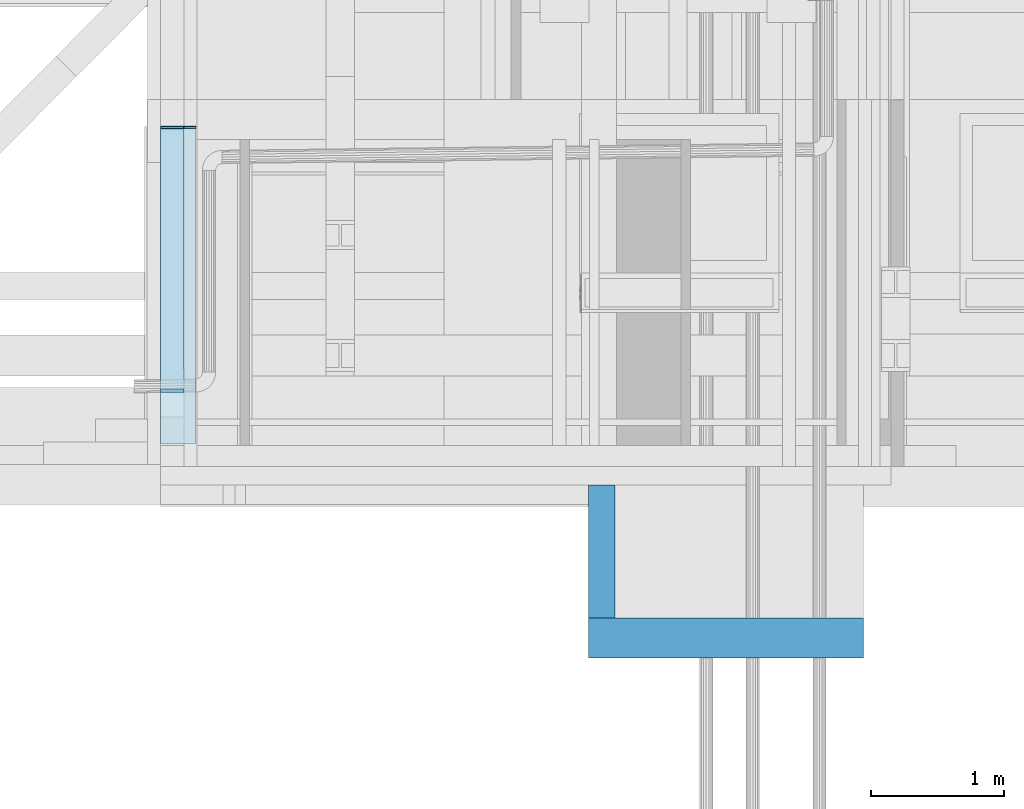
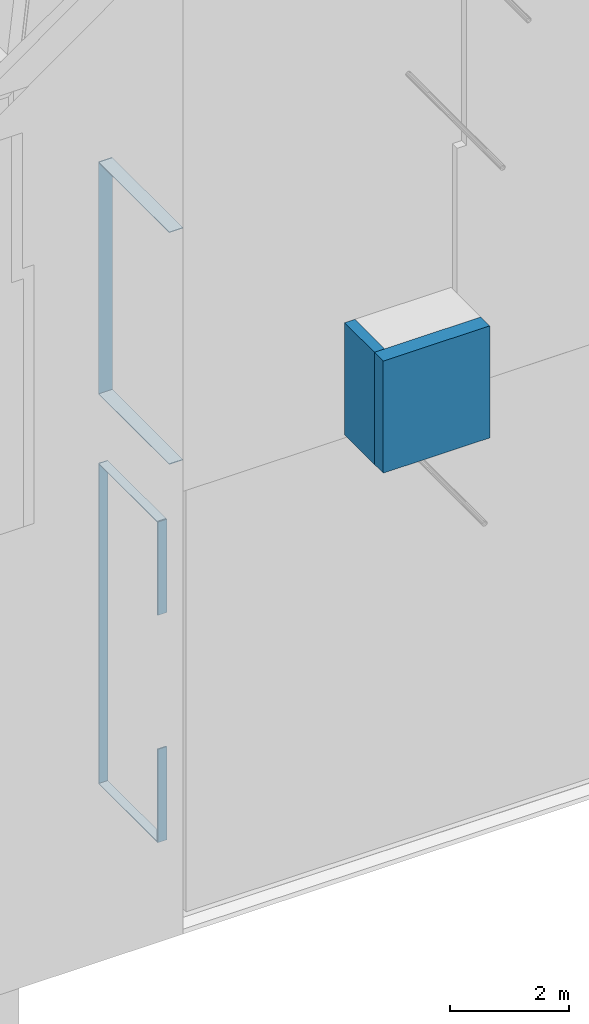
# One storey, part 242 of 583: 10 slabs.
"""IFC2X3 building model written with IfcOpenShell, lengths in metres."""

from ifc_helpers import new_model, entity, si_unit, converted_unit, derived_unit, money_unit, direction, frame, origin_with_axes, place, context, subcontext, project, spatial, faceted_brep, material, type_object, element, save


model = new_model("IFC2X3")

# Units and contexts
model_context = context("Model", 3, precision=1e-05, world=origin_with_axes(), true_north=direction((0.0, 1.0)))
body_context = subcontext(model_context, "Body", "Model", "MODEL_VIEW", scale=1.0)
ifc_project = project(units=[si_unit("LENGTHUNIT", "METRE"), si_unit("AREAUNIT", "SQUARE_METRE"), si_unit("VOLUMEUNIT", "CUBIC_METRE"), si_unit("ABSORBEDDOSEUNIT", "GRAY"), si_unit("AMOUNTOFSUBSTANCEUNIT", "MOLE"), si_unit("DOSEEQUIVALENTUNIT", "SIEVERT"), si_unit("ELECTRICCAPACITANCEUNIT", "FARAD"), si_unit("ELECTRICCHARGEUNIT", "COULOMB"), si_unit("ELECTRICCONDUCTANCEUNIT", "SIEMENS"), si_unit("ELECTRICCURRENTUNIT", "AMPERE"), si_unit("ELECTRICRESISTANCEUNIT", "OHM"), si_unit("ELECTRICVOLTAGEUNIT", "VOLT"), si_unit("ENERGYUNIT", "JOULE"), si_unit("FORCEUNIT", "NEWTON"), si_unit("FREQUENCYUNIT", "HERTZ"), si_unit("ILLUMINANCEUNIT", "LUX"), si_unit("INDUCTANCEUNIT", "HENRY"), si_unit("LUMINOUSFLUXUNIT", "LUMEN"), si_unit("LUMINOUSINTENSITYUNIT", "CANDELA"), si_unit("MAGNETICFLUXDENSITYUNIT", "TESLA"), si_unit("MAGNETICFLUXUNIT", "WEBER"), si_unit("MASSUNIT", "GRAM"), converted_unit("PLANEANGLEUNIT", "degree", entity("IfcReal", 0.0174532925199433), si_unit("PLANEANGLEUNIT", "RADIAN"), dimensions=[0, 0, 0, 0, 0, 0, 0]), si_unit("POWERUNIT", "WATT"), si_unit("PRESSUREUNIT", "PASCAL"), si_unit("RADIOACTIVITYUNIT", "BECQUEREL"), si_unit("SOLIDANGLEUNIT", "STERADIAN"), si_unit("THERMODYNAMICTEMPERATUREUNIT", "KELVIN"), si_unit("TIMEUNIT", "SECOND"), derived_unit("ACCELERATIONUNIT", [(si_unit("LENGTHUNIT", "METRE"), 1), (si_unit("TIMEUNIT", "SECOND"), -2)]), derived_unit("ANGULARVELOCITYUNIT", [(converted_unit("PLANEANGLEUNIT", "degree", entity("IfcReal", 0.0174532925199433), si_unit("PLANEANGLEUNIT", "RADIAN"), dimensions=[0, 0, 0, 0, 0, 0, 0]), 1), (si_unit("TIMEUNIT", "SECOND"), -1)]), derived_unit("CURVATUREUNIT", [(converted_unit("PLANEANGLEUNIT", "degree", entity("IfcReal", 0.0174532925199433), si_unit("PLANEANGLEUNIT", "RADIAN"), dimensions=[0, 0, 0, 0, 0, 0, 0]), 1), (si_unit("LENGTHUNIT", "METRE"), -1)]), derived_unit("DYNAMICVISCOSITYUNIT", [(si_unit("PRESSUREUNIT", "PASCAL"), 1), (si_unit("TIMEUNIT", "SECOND"), 1)]), derived_unit("HEATFLUXDENSITYUNIT", [(si_unit("POWERUNIT", "WATT"), 1), (si_unit("LENGTHUNIT", "METRE"), -2)]), derived_unit("HEATINGVALUEUNIT", [(si_unit("ENERGYUNIT", "JOULE"), 1), (si_unit("MASSUNIT", "GRAM"), -1)]), derived_unit("INTEGERCOUNTRATEUNIT", [(si_unit("TIMEUNIT", "SECOND"), -1)]), derived_unit("IONCONCENTRATIONUNIT", [(si_unit("MASSUNIT", "GRAM"), 1), (si_unit("VOLUMEUNIT", "CUBIC_METRE"), -1)]), derived_unit("ISOTHERMALMOISTURECAPACITYUNIT", [(si_unit("VOLUMEUNIT", "CUBIC_METRE"), 1), (si_unit("MASSUNIT", "GRAM"), -1)]), derived_unit("KINEMATICVISCOSITYUNIT", [(si_unit("AREAUNIT", "SQUARE_METRE"), 1), (si_unit("TIMEUNIT", "SECOND"), -1)]), derived_unit("LINEARFORCEUNIT", [(si_unit("FORCEUNIT", "NEWTON"), 1), (si_unit("LENGTHUNIT", "METRE"), -1)]), derived_unit("LINEARMOMENTUNIT", [(si_unit("FORCEUNIT", "NEWTON"), 1), (si_unit("LENGTHUNIT", "METRE"), -1)]), derived_unit("LINEARSTIFFNESSUNIT", [(si_unit("FORCEUNIT", "NEWTON"), 1), (si_unit("LENGTHUNIT", "METRE"), -1)]), derived_unit("LINEARVELOCITYUNIT", [(si_unit("LENGTHUNIT", "METRE"), 1), (si_unit("TIMEUNIT", "SECOND"), -1)]), derived_unit("LUMINOUSINTENSITYDISTRIBUTIONUNIT", [(si_unit("LUMINOUSINTENSITYUNIT", "CANDELA"), 1), (si_unit("LUMINOUSFLUXUNIT", "LUMEN"), -1)]), derived_unit("MASSDENSITYUNIT", [(si_unit("MASSUNIT", "GRAM"), 1), (si_unit("VOLUMEUNIT", "CUBIC_METRE"), -1)]), derived_unit("MASSFLOWRATEUNIT", [(si_unit("MASSUNIT", "GRAM"), 1), (si_unit("TIMEUNIT", "SECOND"), -1)]), derived_unit("MASSPERLENGTHUNIT", [(si_unit("MASSUNIT", "GRAM"), 1), (si_unit("LENGTHUNIT", "METRE"), -1)]), derived_unit("MODULUSOFELASTICITYUNIT", [(si_unit("FORCEUNIT", "NEWTON"), 1), (si_unit("AREAUNIT", "SQUARE_METRE"), -1)]), derived_unit("MODULUSOFLINEARSUBGRADEREACTIONUNIT", [(si_unit("FORCEUNIT", "NEWTON"), 1), (si_unit("LENGTHUNIT", "METRE"), -2)]), derived_unit("MODULUSOFROTATIONALSUBGRADEREACTIONUNIT", [(si_unit("FORCEUNIT", "NEWTON"), 1), (si_unit("LENGTHUNIT", "METRE"), 1)]), derived_unit("MODULUSOFSUBGRADEREACTIONUNIT", [(si_unit("FORCEUNIT", "NEWTON"), 1), (si_unit("VOLUMEUNIT", "CUBIC_METRE"), -1)]), derived_unit("MOISTUREDIFFUSIVITYUNIT", [(si_unit("VOLUMEUNIT", "CUBIC_METRE"), 1), (si_unit("TIMEUNIT", "SECOND"), -1)]), derived_unit("MOLECULARWEIGHTUNIT", [(si_unit("MASSUNIT", "GRAM"), 1), (si_unit("AMOUNTOFSUBSTANCEUNIT", "MOLE"), -1)]), derived_unit("PLANARFORCEUNIT", [(si_unit("FORCEUNIT", "NEWTON"), 1), (si_unit("LENGTHUNIT", "METRE"), -2)]), derived_unit("ROTATIONALFREQUENCYUNIT", [(si_unit("TIMEUNIT", "SECOND"), -1)]), derived_unit("ROTATIONALMASSUNIT", [(si_unit("MASSUNIT", "GRAM"), 1), (si_unit("LENGTHUNIT", "METRE"), 2)]), derived_unit("ROTATIONALSTIFFNESSUNIT", [(si_unit("FORCEUNIT", "NEWTON"), 1), (si_unit("LENGTHUNIT", "METRE"), 1), (converted_unit("PLANEANGLEUNIT", "degree", entity("IfcReal", 0.0174532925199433), si_unit("PLANEANGLEUNIT", "RADIAN"), dimensions=[0, 0, 0, 0, 0, 0, 0]), -1)]), derived_unit("SECTIONAREAINTEGRALUNIT", [(si_unit("LENGTHUNIT", "METRE"), 5)]), derived_unit("SECTIONMODULUSUNIT", [(si_unit("LENGTHUNIT", "METRE"), 3)]), derived_unit("SHEARMODULUSUNIT", [(si_unit("FORCEUNIT", "NEWTON"), 1), (si_unit("AREAUNIT", "SQUARE_METRE"), -1)]), derived_unit("SOUNDPOWERUNIT", [(si_unit("ENERGYUNIT", "JOULE"), 1), (si_unit("TIMEUNIT", "SECOND"), -1)]), derived_unit("SPECIFICHEATCAPACITYUNIT", [(si_unit("FORCEUNIT", "NEWTON"), 1), (si_unit("MASSUNIT", "GRAM"), -1), (si_unit("THERMODYNAMICTEMPERATUREUNIT", "KELVIN"), -1)]), derived_unit("TEMPERATUREGRADIENTUNIT", [(si_unit("THERMODYNAMICTEMPERATUREUNIT", "KELVIN"), 1), (si_unit("LENGTHUNIT", "METRE"), -1)]), derived_unit("THERMALADMITTANCEUNIT", [(si_unit("POWERUNIT", "WATT"), 1), (si_unit("AREAUNIT", "SQUARE_METRE"), -1), (si_unit("THERMODYNAMICTEMPERATUREUNIT", "KELVIN"), -1)]), derived_unit("THERMALCONDUCTANCEUNIT", [(si_unit("POWERUNIT", "WATT"), 1), (si_unit("LENGTHUNIT", "METRE"), -1), (si_unit("THERMODYNAMICTEMPERATUREUNIT", "KELVIN"), -1)]), derived_unit("THERMALEXPANSIONCOEFFICIENTUNIT", [(si_unit("THERMODYNAMICTEMPERATUREUNIT", "KELVIN"), -1)]), derived_unit("THERMALRESISTANCEUNIT", [(si_unit("AREAUNIT", "SQUARE_METRE"), 1), (si_unit("POWERUNIT", "WATT"), -1)]), derived_unit("THERMALTRANSMITTANCEUNIT", [(si_unit("POWERUNIT", "WATT"), 1), (si_unit("AREAUNIT", "SQUARE_METRE"), -1), (si_unit("THERMODYNAMICTEMPERATUREUNIT", "KELVIN"), -1)]), derived_unit("TORQUEUNIT", [(si_unit("FORCEUNIT", "NEWTON"), 1), (si_unit("LENGTHUNIT", "METRE"), 1)]), derived_unit("VAPORPERMEABILITYUNIT", [(si_unit("MASSUNIT", "GRAM"), 1), (si_unit("TIMEUNIT", "SECOND"), -1)]), derived_unit("VOLUMETRICFLOWRATEUNIT", [(si_unit("VOLUMEUNIT", "CUBIC_METRE"), 1), (si_unit("TIMEUNIT", "SECOND"), -1)]), derived_unit("WARPINGCONSTANTUNIT", [(si_unit("LENGTHUNIT", "METRE"), 6)]), derived_unit("WARPINGMOMENTUNIT", [(si_unit("FORCEUNIT", "NEWTON"), 1), (si_unit("LENGTHUNIT", "METRE"), 2)]), money_unit("GBP")], contexts=[model_context])

# Site, building, storey
site_placement = place(None, origin_with_axes())
site = spatial("IfcSite", under=ifc_project, at=site_placement, Name="Site", CompositionType="ELEMENT")
building_placement = place(site_placement, origin_with_axes())
building = spatial("IfcBuilding", under=site, at=building_placement, Name="Building01", CompositionType="ELEMENT")
storey_placement = place(building_placement, frame((0.0, 0.0, 20.78), z_axis=(0.0, 0.0, 1.0), x_axis=(1.0, 0.0, 0.0)))
storey = spatial("IfcBuildingStorey", under=building, at=storey_placement, Name="RL", CompositionType="ELEMENT", Elevation=20.78)

# Slabs
ifc_material = material(Name="A_BSUK_Slabs")
slab_type = type_object("IfcSlabType", Name="A-FloorsSlabs A_BSUK_Slabs", PredefinedType="FLOOR")
placement = place(storey_placement, frame((0.0, 0.0, -20.78), z_axis=(0.0, 0.0, 1.0), x_axis=(1.0, 0.0, 0.0)))
element("IfcSlab", 1, at=placement, inside=storey, type_object=slab_type, material=ifc_material, Name="A-FloorsSlabs A_BSUK_Slabs", ObjectType="CompoundSlabLeaf", context=body_context, shape_type="Brep", body=[
    faceted_brep([(3.559009, 0.398, 1.361681), (3.559009, 0.423, 1.361681), (3.733332, 0.423, 1.361681), (3.733332, 0.398, 1.361681), (3.559009, 0.398, 3.276681), (3.559009, 0.423, 3.276681), (3.733298, 0.398, 3.276681), (3.733298, 0.423, 3.276681)], [[[0, 1, 2, 3]], [[4, 5, 1, 0]], [[6, 7, 5, 4]], [[3, 2, 7, 6]], [[1, 5, 7, 2]], [[3, 6, 4, 0]]]),
])
element("IfcSlab", 2, at=placement, inside=storey, type_object=slab_type, material=ifc_material, Name="A-FloorsSlabs A_BSUK_Slabs", ObjectType="CompoundSlabLeaf", context=body_context, shape_type="Brep", body=[
    faceted_brep([(3.559009, 0.398, 6.026681), (3.559009, 0.423, 6.026681), (3.733332, 0.423, 6.026681), (3.733332, 0.398, 6.026681), (3.559009, 0.398, 7.941681), (3.559009, 0.423, 7.941681), (3.733298, 0.398, 7.941681), (3.733298, 0.423, 7.941681)], [[[0, 1, 2, 3]], [[4, 5, 1, 0]], [[6, 7, 5, 4]], [[3, 2, 7, 6]], [[1, 5, 7, 2]], [[3, 6, 4, 0]]]),
])
element("IfcSlab", 3, at=placement, inside=storey, type_object=slab_type, material=ifc_material, Name="A-FloorsSlabs A_BSUK_Slabs", ObjectType="CompoundSlabLeaf", context=body_context, shape_type="Brep", body=[
    faceted_brep([(3.559009, 2.383, 1.361681), (3.559009, 2.398, 1.361681), (3.733332, 2.398, 1.361681), (3.733332, 2.383, 1.361681), (3.559009, 2.383, 7.941681), (3.559009, 2.398, 7.941681), (3.733298, 2.383, 7.941681), (3.733298, 2.398, 7.941681)], [[[0, 1, 2, 3]], [[4, 5, 1, 0]], [[6, 7, 5, 4]], [[3, 2, 7, 6]], [[1, 5, 7, 2]], [[3, 6, 4, 0]]]),
])
element("IfcSlab", 4, at=placement, inside=storey, type_object=slab_type, material=ifc_material, Name="A-FloorsSlabs A_BSUK_Slabs", ObjectType="CompoundSlabLeaf", context=body_context, shape_type="Brep", body=[
    faceted_brep([(3.559009, 0.413, 1.376681), (3.559009, 0.413, 1.361681), (3.733332, 0.413, 1.361681), (3.733332, 0.413, 1.376681), (3.55892, 2.383, 1.376681), (3.55892, 2.383, 1.361681), (3.733208, 2.383, 1.376681), (3.733208, 2.383, 1.361681)], [[[0, 1, 2, 3]], [[4, 5, 1, 0]], [[6, 7, 5, 4]], [[3, 2, 7, 6]], [[1, 5, 7, 2]], [[3, 6, 4, 0]]]),
])
element("IfcSlab", 5, at=placement, inside=storey, type_object=slab_type, material=ifc_material, Name="A-FloorsSlabs A_BSUK_Slabs", ObjectType="CompoundSlabLeaf", context=body_context, shape_type="Brep", body=[
    faceted_brep([(3.559009, 0.413, 7.941681), (3.559009, 0.413, 7.926681), (3.733332, 0.413, 7.926681), (3.733332, 0.413, 7.941681), (3.55892, 2.383, 7.941681), (3.55892, 2.383, 7.926681), (3.733208, 2.383, 7.941681), (3.733208, 2.383, 7.926681)], [[[0, 1, 2, 3]], [[4, 5, 1, 0]], [[6, 7, 5, 4]], [[3, 2, 7, 6]], [[1, 5, 7, 2]], [[3, 6, 4, 0]]]),
])
element("IfcSlab", 6, at=placement, inside=storey, type_object=slab_type, material=ifc_material, Name="A-FloorsSlabs A_BSUK_Slabs", ObjectType="CompoundSlabLeaf", context=body_context, shape_type="Brep", body=[
    faceted_brep([(3.559352, 2.385, 9.354099), (3.559352, 2.4, 9.354099), (3.823962, 2.4, 9.354099), (3.823962, 2.385, 9.354099), (3.559352, 2.385, 14.124099), (3.559352, 2.4, 14.124099), (3.823962, 2.385, 14.124099), (3.823962, 2.4, 14.124099)], [[[0, 1, 2, 3]], [[4, 5, 1, 0]], [[6, 7, 5, 4]], [[3, 2, 7, 6]], [[1, 5, 7, 2]], [[3, 6, 4, 0]]]),
])
element("IfcSlab", 7, at=placement, inside=storey, type_object=slab_type, material=ifc_material, Name="A-FloorsSlabs A_BSUK_Slabs", ObjectType="CompoundSlabLeaf", context=body_context, shape_type="Brep", body=[
    faceted_brep([(3.559352, 0.015, 9.369099), (3.559352, 0.015, 9.354099), (3.823962, 0.015, 9.354099), (3.823962, 0.015, 9.369099), (3.559262, 2.385, 9.369099), (3.559262, 2.385, 9.354099), (3.823838, 2.385, 9.369099), (3.823838, 2.385, 9.354099)], [[[0, 1, 2, 3]], [[4, 5, 1, 0]], [[6, 7, 5, 4]], [[3, 2, 7, 6]], [[1, 5, 7, 2]], [[3, 6, 4, 0]]]),
])
element("IfcSlab", 8, at=placement, inside=storey, type_object=slab_type, material=ifc_material, Name="A-FloorsSlabs A_BSUK_Slabs", ObjectType="CompoundSlabLeaf", context=body_context, shape_type="Brep", body=[
    faceted_brep([(3.559352, 0.015, 14.124099), (3.559352, 0.015, 14.109099), (3.823962, 0.015, 14.109099), (3.823962, 0.015, 14.124099), (3.559262, 2.385, 14.124099), (3.559262, 2.385, 14.109099), (3.823838, 2.385, 14.124099), (3.823838, 2.385, 14.109099)], [[[0, 1, 2, 3]], [[4, 5, 1, 0]], [[6, 7, 5, 4]], [[3, 2, 7, 6]], [[1, 5, 7, 2]], [[3, 6, 4, 0]]]),
])
element("IfcSlab", 9, at=placement, inside=storey, type_object=slab_type, material=ifc_material, Name="A-FloorsSlabs A_BSUK_Slabs", ObjectType="CompoundSlabLeaf", context=body_context, shape_type="Brep", body=[
    faceted_brep([(6.98, -1.3, 11.33), (6.98, -0.3, 11.33), (6.78, -0.3, 11.33), (6.78, -1.3, 11.33), (6.98, -1.3, 9.23), (6.98, -0.3, 9.23), (8.84741, -1.3, 9.23), (8.84741, -0.3, 9.23), (8.84741, -1.3, 9.03), (8.84741, -0.3, 9.03), (6.78, -1.3, 9.03), (6.78, -0.3, 9.03), (6.78, -1.3, 9.23), (6.78, -0.3, 9.23)], [[[0, 1, 2, 3]], [[4, 5, 1, 0]], [[6, 7, 5, 4]], [[8, 9, 7, 6]], [[10, 11, 9, 8]], [[12, 13, 11, 10]], [[3, 2, 13, 12]], [[1, 5, 7, 9, 11, 13, 2]], [[3, 12, 10, 8, 6, 4, 0]]]),
])
element("IfcSlab", 10, at=placement, inside=storey, type_object=slab_type, material=ifc_material, Name="A-FloorsSlabs A_BSUK_Slabs", ObjectType="CompoundSlabLeaf", context=body_context, shape_type="Brep", body=[
    faceted_brep([(8.84741, -1.6, 9.03), (8.84741, -1.3, 9.03), (8.84741, -1.3, 11.33), (8.84741, -1.6, 11.33), (6.78, -1.6, 9.03), (6.78, -1.3, 9.03), (6.78, -1.6, 11.33), (6.78, -1.3, 11.33)], [[[0, 1, 2, 3]], [[4, 5, 1, 0]], [[6, 7, 5, 4]], [[3, 2, 7, 6]], [[1, 5, 7, 2]], [[3, 6, 4, 0]]]),
])

save(model, "model.ifc")
